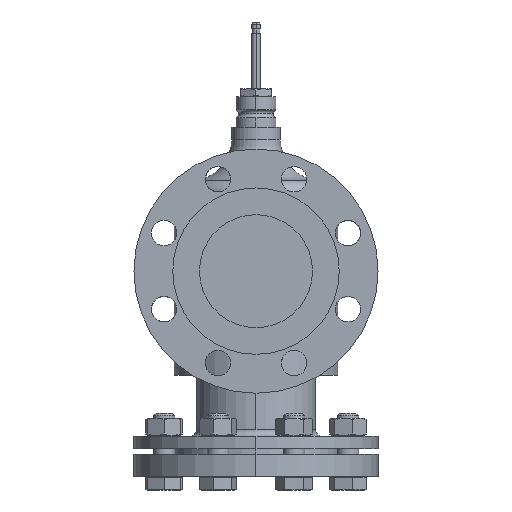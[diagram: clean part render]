
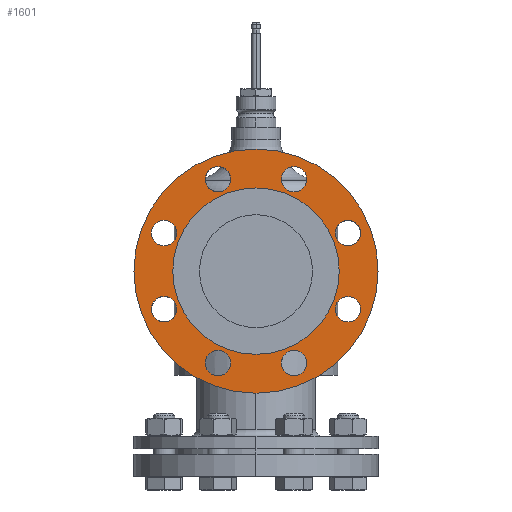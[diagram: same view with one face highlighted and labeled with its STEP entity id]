
A CAD part, front view. The second image highlights one B-rep face of the part: STEP entity #1601.
In plain terms, the highlighted planar face has unit normal (0, -1, 0).
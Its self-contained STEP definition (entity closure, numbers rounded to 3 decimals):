
#541=FACE_BOUND('',#2753,.T.);
#542=FACE_BOUND('',#2754,.T.);
#543=FACE_BOUND('',#2755,.T.);
#544=FACE_BOUND('',#2756,.T.);
#545=FACE_BOUND('',#2757,.T.);
#546=FACE_BOUND('',#2758,.T.);
#547=FACE_BOUND('',#2759,.T.);
#548=FACE_BOUND('',#2760,.T.);
#549=FACE_BOUND('',#2761,.T.);
#550=FACE_BOUND('',#2762,.T.);
#1181=PLANE('',#8135);
#1601=ADVANCED_FACE('',(#541,#542,#543,#544,#545,#546,#547,#548,#549,#550),
#1181,.T.);
#2753=EDGE_LOOP('',(#4984));
#2754=EDGE_LOOP('',(#4985));
#2755=EDGE_LOOP('',(#4986));
#2756=EDGE_LOOP('',(#4987));
#2757=EDGE_LOOP('',(#4988));
#2758=EDGE_LOOP('',(#4989));
#2759=EDGE_LOOP('',(#4990));
#2760=EDGE_LOOP('',(#4991));
#2761=EDGE_LOOP('',(#4992,#4993));
#2762=EDGE_LOOP('',(#4994,#4995));
#3252=CIRCLE('',#8123,14.);
#3253=CIRCLE('',#8124,14.);
#3254=CIRCLE('',#8125,14.);
#3255=CIRCLE('',#8126,14.);
#3256=CIRCLE('',#8127,14.);
#3257=CIRCLE('',#8128,14.);
#3258=CIRCLE('',#8129,14.);
#3259=CIRCLE('',#8130,14.);
#3260=CIRCLE('',#8131,135.);
#3261=CIRCLE('',#8132,135.);
#3262=CIRCLE('',#8133,92.);
#3263=CIRCLE('',#8134,92.);
#4984=ORIENTED_EDGE('',*,*,#6858,.F.);
#4985=ORIENTED_EDGE('',*,*,#6859,.F.);
#4986=ORIENTED_EDGE('',*,*,#6860,.F.);
#4987=ORIENTED_EDGE('',*,*,#6861,.F.);
#4988=ORIENTED_EDGE('',*,*,#6862,.F.);
#4989=ORIENTED_EDGE('',*,*,#6863,.F.);
#4990=ORIENTED_EDGE('',*,*,#6864,.F.);
#4991=ORIENTED_EDGE('',*,*,#6865,.F.);
#4992=ORIENTED_EDGE('',*,*,#6866,.F.);
#4993=ORIENTED_EDGE('',*,*,#6867,.F.);
#4994=ORIENTED_EDGE('',*,*,#6868,.T.);
#4995=ORIENTED_EDGE('',*,*,#6869,.T.);
#5905=VERTEX_POINT('',#16324);
#5906=VERTEX_POINT('',#16326);
#5907=VERTEX_POINT('',#16328);
#5908=VERTEX_POINT('',#16330);
#5909=VERTEX_POINT('',#16332);
#5910=VERTEX_POINT('',#16334);
#5911=VERTEX_POINT('',#16336);
#5912=VERTEX_POINT('',#16338);
#5913=VERTEX_POINT('',#16340);
#5914=VERTEX_POINT('',#16341);
#5915=VERTEX_POINT('',#16344);
#5916=VERTEX_POINT('',#16345);
#6858=EDGE_CURVE('',#5905,#5905,#3252,.T.);
#6859=EDGE_CURVE('',#5906,#5906,#3253,.T.);
#6860=EDGE_CURVE('',#5907,#5907,#3254,.T.);
#6861=EDGE_CURVE('',#5908,#5908,#3255,.T.);
#6862=EDGE_CURVE('',#5909,#5909,#3256,.T.);
#6863=EDGE_CURVE('',#5910,#5910,#3257,.T.);
#6864=EDGE_CURVE('',#5911,#5911,#3258,.T.);
#6865=EDGE_CURVE('',#5912,#5912,#3259,.T.);
#6866=EDGE_CURVE('',#5913,#5914,#3260,.T.);
#6867=EDGE_CURVE('',#5914,#5913,#3261,.T.);
#6868=EDGE_CURVE('',#5915,#5916,#3262,.T.);
#6869=EDGE_CURVE('',#5916,#5915,#3263,.T.);
#8123=AXIS2_PLACEMENT_3D('',#16323,#9885,#9886);
#8124=AXIS2_PLACEMENT_3D('',#16325,#9887,#9888);
#8125=AXIS2_PLACEMENT_3D('',#16327,#9889,#9890);
#8126=AXIS2_PLACEMENT_3D('',#16329,#9891,#9892);
#8127=AXIS2_PLACEMENT_3D('',#16331,#9893,#9894);
#8128=AXIS2_PLACEMENT_3D('',#16333,#9895,#9896);
#8129=AXIS2_PLACEMENT_3D('',#16335,#9897,#9898);
#8130=AXIS2_PLACEMENT_3D('',#16337,#9899,#9900);
#8131=AXIS2_PLACEMENT_3D('',#16339,#9901,#9902);
#8132=AXIS2_PLACEMENT_3D('',#16342,#9903,#9904);
#8133=AXIS2_PLACEMENT_3D('',#16343,#9905,#9906);
#8134=AXIS2_PLACEMENT_3D('',#16346,#9907,#9908);
#8135=AXIS2_PLACEMENT_3D('',#16347,#9909,#9910);
#9885=DIRECTION('',(0.,-1.,0.));
#9886=DIRECTION('',(0.707,0.,-0.707));
#9887=DIRECTION('',(0.,-1.,0.));
#9888=DIRECTION('',(1.,0.,0.));
#9889=DIRECTION('',(0.,-1.,0.));
#9890=DIRECTION('',(0.707,0.,0.707));
#9891=DIRECTION('',(0.,-1.,0.));
#9892=DIRECTION('',(0.,0.,1.));
#9893=DIRECTION('',(0.,-1.,0.));
#9894=DIRECTION('',(-0.707,0.,0.707));
#9895=DIRECTION('',(0.,-1.,0.));
#9896=DIRECTION('',(-1.,0.,0.));
#9897=DIRECTION('',(0.,-1.,0.));
#9898=DIRECTION('',(-0.707,0.,-0.707));
#9899=DIRECTION('',(0.,-1.,0.));
#9900=DIRECTION('',(0.,0.,-1.));
#9901=DIRECTION('',(0.,1.,0.));
#9902=DIRECTION('',(1.,0.,0.));
#9903=DIRECTION('',(0.,1.,0.));
#9904=DIRECTION('',(1.,0.,0.));
#9905=DIRECTION('',(0.,1.,0.));
#9906=DIRECTION('',(0.,0.,1.));
#9907=DIRECTION('',(0.,1.,0.));
#9908=DIRECTION('',(0.,0.,1.));
#9909=DIRECTION('',(0.,-1.,0.));
#9910=DIRECTION('',(0.,0.,1.));
#16323=CARTESIAN_POINT('',(-42.095,203.,101.627));
#16324=CARTESIAN_POINT('',(-32.196,203.,91.727));
#16325=CARTESIAN_POINT('',(-101.627,203.,42.095));
#16326=CARTESIAN_POINT('',(-87.627,203.,42.095));
#16327=CARTESIAN_POINT('',(-101.627,203.,-42.095));
#16328=CARTESIAN_POINT('',(-91.727,203.,-32.196));
#16329=CARTESIAN_POINT('',(-42.095,203.,-101.627));
#16330=CARTESIAN_POINT('',(-42.095,203.,-87.627));
#16331=CARTESIAN_POINT('',(42.095,203.,-101.627));
#16332=CARTESIAN_POINT('',(32.196,203.,-91.727));
#16333=CARTESIAN_POINT('',(101.627,203.,-42.095));
#16334=CARTESIAN_POINT('',(87.627,203.,-42.095));
#16335=CARTESIAN_POINT('',(101.627,203.,42.095));
#16336=CARTESIAN_POINT('',(91.727,203.,32.196));
#16337=CARTESIAN_POINT('',(42.095,203.,101.627));
#16338=CARTESIAN_POINT('',(42.095,203.,87.627));
#16339=CARTESIAN_POINT('',(0.,203.,0.));
#16340=CARTESIAN_POINT('',(0.,203.,135.));
#16341=CARTESIAN_POINT('',(0.,203.,-135.));
#16342=CARTESIAN_POINT('',(0.,203.,0.));
#16343=CARTESIAN_POINT('',(0.,203.,0.));
#16344=CARTESIAN_POINT('',(0.,203.,92.));
#16345=CARTESIAN_POINT('',(0.,203.,-92.));
#16346=CARTESIAN_POINT('',(0.,203.,0.));
#16347=CARTESIAN_POINT('',(125.,203.,-125.));
